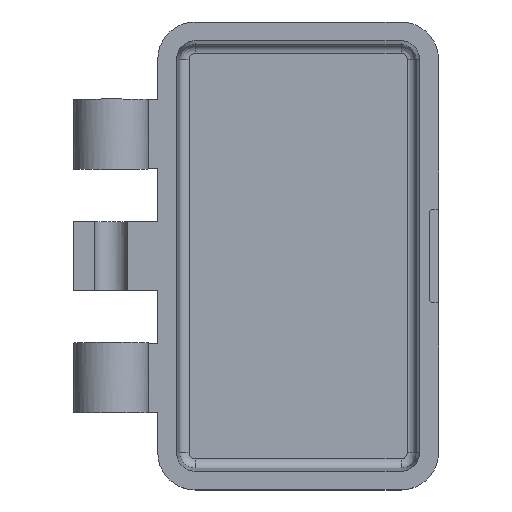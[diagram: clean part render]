
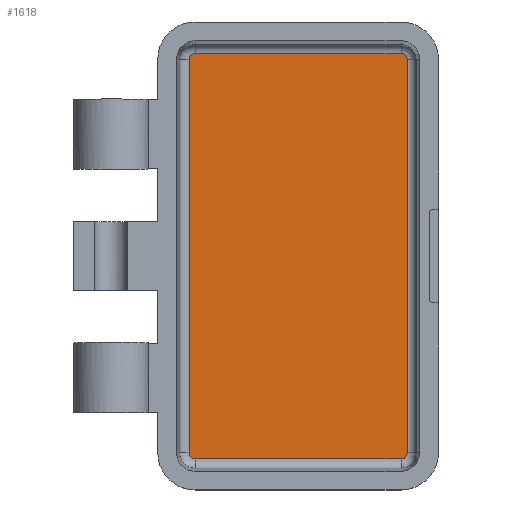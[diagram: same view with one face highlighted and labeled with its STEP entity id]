
A CAD part, top view. The second image highlights one B-rep face of the part: STEP entity #1618.
In plain terms, the highlighted planar face has unit normal (0, 0, 1).
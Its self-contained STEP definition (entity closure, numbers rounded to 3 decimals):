
#132=FACE_OUTER_BOUND('',#230,.T.);
#230=EDGE_LOOP('',(#1242,#1243,#1244,#1245,#1246,#1247,#1248,#1249));
#324=CIRCLE('',#1782,0.649);
#325=CIRCLE('',#1783,0.649);
#326=CIRCLE('',#1784,0.649);
#327=CIRCLE('',#1785,0.649);
#464=LINE('',#2686,#604);
#465=LINE('',#2690,#605);
#466=LINE('',#2694,#606);
#467=LINE('',#2698,#607);
#604=VECTOR('',#2159,1.);
#605=VECTOR('',#2162,1.);
#606=VECTOR('',#2165,1.);
#607=VECTOR('',#2168,1.);
#740=VERTEX_POINT('',#2684);
#741=VERTEX_POINT('',#2685);
#742=VERTEX_POINT('',#2687);
#743=VERTEX_POINT('',#2689);
#744=VERTEX_POINT('',#2691);
#745=VERTEX_POINT('',#2693);
#746=VERTEX_POINT('',#2695);
#747=VERTEX_POINT('',#2697);
#928=EDGE_CURVE('',#740,#741,#464,.T.);
#929=EDGE_CURVE('',#741,#742,#324,.T.);
#930=EDGE_CURVE('',#742,#743,#465,.T.);
#931=EDGE_CURVE('',#743,#744,#325,.T.);
#932=EDGE_CURVE('',#744,#745,#466,.T.);
#933=EDGE_CURVE('',#745,#746,#326,.T.);
#934=EDGE_CURVE('',#746,#747,#467,.T.);
#935=EDGE_CURVE('',#747,#740,#327,.T.);
#1242=ORIENTED_EDGE('',*,*,#928,.T.);
#1243=ORIENTED_EDGE('',*,*,#929,.T.);
#1244=ORIENTED_EDGE('',*,*,#930,.T.);
#1245=ORIENTED_EDGE('',*,*,#931,.T.);
#1246=ORIENTED_EDGE('',*,*,#932,.T.);
#1247=ORIENTED_EDGE('',*,*,#933,.T.);
#1248=ORIENTED_EDGE('',*,*,#934,.T.);
#1249=ORIENTED_EDGE('',*,*,#935,.T.);
#1453=PLANE('',#1781);
#1618=ADVANCED_FACE('',(#132),#1453,.T.);
#1781=AXIS2_PLACEMENT_3D('',#2683,#2157,#2158);
#1782=AXIS2_PLACEMENT_3D('',#2688,#2160,#2161);
#1783=AXIS2_PLACEMENT_3D('',#2692,#2163,#2164);
#1784=AXIS2_PLACEMENT_3D('',#2696,#2166,#2167);
#1785=AXIS2_PLACEMENT_3D('',#2699,#2169,#2170);
#2157=DIRECTION('center_axis',(0.,0.,1.));
#2158=DIRECTION('ref_axis',(1.,0.,0.));
#2159=DIRECTION('',(-1.,0.,0.));
#2160=DIRECTION('center_axis',(0.,0.,
1.));
#2161=DIRECTION('ref_axis',(1.,0.,0.));
#2162=DIRECTION('',(0.,-1.,0.));
#2163=DIRECTION('center_axis',(0.,0.,
1.));
#2164=DIRECTION('ref_axis',(1.,0.,0.));
#2165=DIRECTION('',(1.,0.,0.));
#2166=DIRECTION('center_axis',(0.,0.,
1.));
#2167=DIRECTION('ref_axis',(1.,0.,0.));
#2168=DIRECTION('',(0.,1.,0.));
#2169=DIRECTION('center_axis',(0.,0.,
1.));
#2170=DIRECTION('ref_axis',(1.,0.,0.));
#2683=CARTESIAN_POINT('Origin',(-83.875,-51.875,-13.));
#2684=CARTESIAN_POINT('',(11.,21.649,-13.));
#2685=CARTESIAN_POINT('',(-11.,21.649,-13.));
#2686=CARTESIAN_POINT('',(0.,21.649,-13.));
#2687=CARTESIAN_POINT('',(-11.649,21.,-13.));
#2688=CARTESIAN_POINT('Origin',(-11.,21.,-13.));
#2689=CARTESIAN_POINT('',(-11.649,-21.,-13.));
#2690=CARTESIAN_POINT('',(-11.649,0.,-13.));
#2691=CARTESIAN_POINT('',(-11.,-21.649,-13.));
#2692=CARTESIAN_POINT('Origin',(-11.,-21.,-13.));
#2693=CARTESIAN_POINT('',(11.,-21.649,-13.));
#2694=CARTESIAN_POINT('',(0.,-21.649,-13.));
#2695=CARTESIAN_POINT('',(11.649,-21.,-13.));
#2696=CARTESIAN_POINT('Origin',(11.,-21.,-13.));
#2697=CARTESIAN_POINT('',(11.649,21.,-13.));
#2698=CARTESIAN_POINT('',(11.649,0.,-13.));
#2699=CARTESIAN_POINT('Origin',(11.,21.,-13.));
